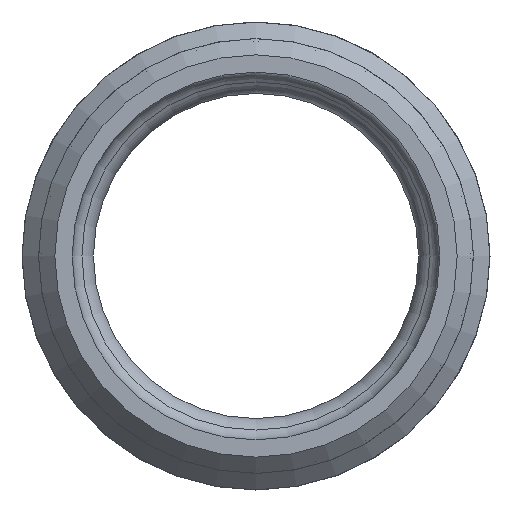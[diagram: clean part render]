
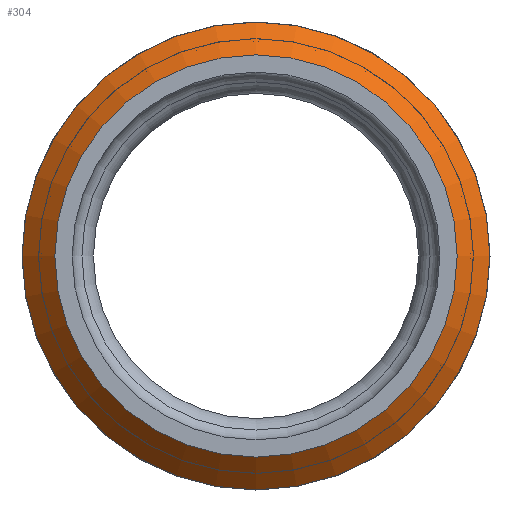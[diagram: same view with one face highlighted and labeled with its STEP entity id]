
A CAD part, front view. The second image highlights one B-rep face of the part: STEP entity #304.
In plain terms, the highlighted conical face has half-angle 45 degrees and reference radius 22.327 mm.
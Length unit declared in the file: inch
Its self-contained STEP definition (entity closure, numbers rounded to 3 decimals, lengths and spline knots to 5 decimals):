
#241=CARTESIAN_POINT('',(0.0,-7.373,-0.756));
#242=VERTEX_POINT('',#241);
#243=CARTESIAN_POINT('',(0.,-7.373,0.756));
#244=VERTEX_POINT('',#243);
#245=CARTESIAN_POINT('',(0.0,-7.373,0.0));
#246=DIRECTION('',(0.0,1.0,0.0));
#247=DIRECTION('',(0.0,0.0,-1.0));
#248=AXIS2_PLACEMENT_3D('',#245,#246,#247);
#249=CIRCLE('',#248,0.756);
#250=EDGE_CURVE('',#242,#244,#249,.T.);
#252=CARTESIAN_POINT('',(0.0,-7.373,0.0));
#253=DIRECTION('',(0.0,1.0,0.0));
#254=DIRECTION('',(0.0,0.0,-1.0));
#255=AXIS2_PLACEMENT_3D('',#252,#253,#254);
#256=CIRCLE('',#255,0.756);
#257=EDGE_CURVE('',#244,#242,#256,.T.);
#267=CARTESIAN_POINT('',(0.0,-7.25,-0.879));
#268=VERTEX_POINT('',#267);
#269=CARTESIAN_POINT('',(0.,-7.25,0.879));
#270=VERTEX_POINT('',#269);
#271=CARTESIAN_POINT('',(0.0,-7.25,0.0));
#272=DIRECTION('',(0.0,-1.0,0.0));
#273=DIRECTION('',(0.0,0.0,-1.0));
#274=AXIS2_PLACEMENT_3D('',#271,#272,#273);
#275=CIRCLE('',#274,0.879);
#276=EDGE_CURVE('',#268,#270,#275,.T.);
#278=CARTESIAN_POINT('',(0.0,-7.25,0.0));
#279=DIRECTION('',(0.0,-1.0,0.0));
#280=DIRECTION('',(0.0,0.0,-1.0));
#281=AXIS2_PLACEMENT_3D('',#278,#279,#280);
#282=CIRCLE('',#281,0.879);
#283=EDGE_CURVE('',#270,#268,#282,.T.);
#291=CARTESIAN_POINT('',(0.0,-7.25,0.0));
#292=DIRECTION('',(0.,1.0,0.));
#293=DIRECTION('',(0.0,0.0,-1.0));
#294=AXIS2_PLACEMENT_3D('',#291,#292,#293);
#295=CONICAL_SURFACE('',#294,0.879,45.);
#296=ORIENTED_EDGE('',*,*,#276,.T.);
#297=ORIENTED_EDGE('',*,*,#283,.T.);
#298=EDGE_LOOP('',(#296,#297));
#299=FACE_OUTER_BOUND('',#298,.T.);
#300=ORIENTED_EDGE('',*,*,#250,.T.);
#301=ORIENTED_EDGE('',*,*,#257,.T.);
#302=EDGE_LOOP('',(#300,#301));
#303=FACE_BOUND('',#302,.T.);
#304=ADVANCED_FACE('',(#299,#303),#295,.T.);
